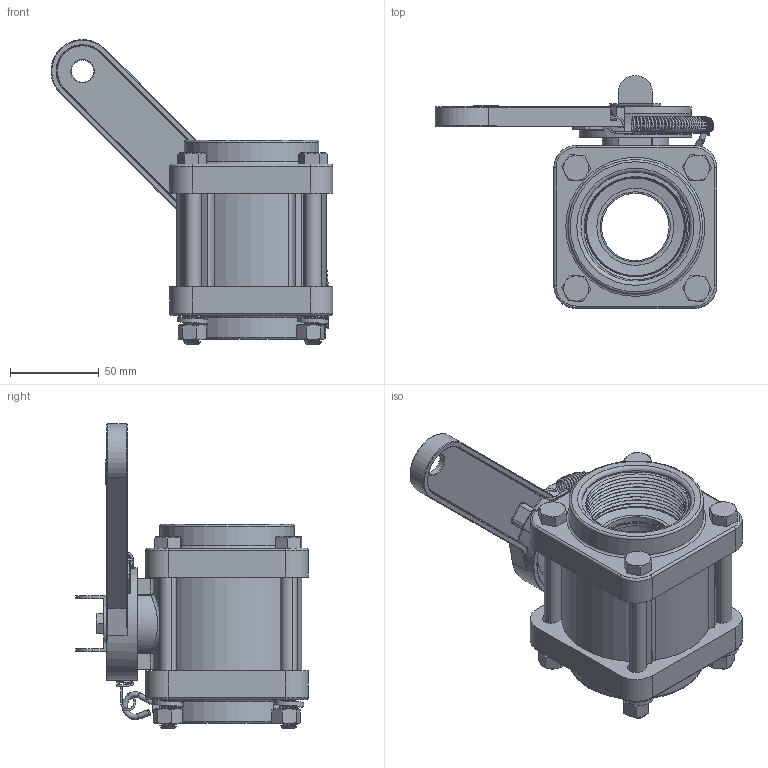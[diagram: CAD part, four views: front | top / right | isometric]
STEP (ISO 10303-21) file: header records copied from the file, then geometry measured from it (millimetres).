
FILE_DESCRIPTION(/* description */ ('Alibre Inc.'),/* implementation_level */ '2;1');
FILE_NAME(/* name */ 'export0',/* time_stamp */ '2017-09-30T10:46:58-04:00',/* author */ (''),/* organization */ (''),/* preprocessor_version */ 'ST-DEVELOPER v14',/* originating_system */ 'Alibre',/* authorisation */ '');
FILE_SCHEMA (('CONFIG_CONTROL_DESIGN'));
Length unit declared in the file: centimetre
Products named in the file (26): ID_1; ID_2; ID_3; ID_4; ID_5; ID_6; ID_7; ID_8; ID_9; ID_10; ID_11; ID_12; ID_13; ID_14; ID_15; ID_16; ID_17; ID_18; ID_19; ID_20; ID_21; ID_22; ID_23
Bounding box: 158.88 x 131.42 x 171.88 mm (x, y, z)
Volume: 563085 mm3; surface area: 198391.3 mm2
Topology: 63 solids, 63 shells, 1247 faces, 3192 edges, 2026 vertices
Faces by surface type: cylinder 442, plane 327, bspline 187, cone 186, torus 96, sphere 9
Full cylindrical faces by diameter (mm): 1.143 x2, 3.175 x2, 4.775 x1, 4.826 x3, 4.978 x1, 7.163 x1, 9.652 x8, 12.446 x1, 19.05 x4, 19.431 x1, 21.59 x1, 22.098 x1, 22.352 x2, 22.86 x1, 24.892 x1, 25.4 x1, 31.496 x2, 31.75 x1, 33.147 x1, 38.1 x2, 38.354 x1, 39.624 x2, 61.468 x2, 63.5 x2, 65.278 x1, 71.12 x2, 71.628 x2, 75.946 x2
Entity records: 62971 total; most frequent: CARTESIAN_POINT 43167, ORIENTED_EDGE 3756, DIRECTION 2878, EDGE_CURVE 1878, VERTEX_POINT 1256, AXIS2_PLACEMENT_3D 1237, FACE_BOUND 938, EDGE_LOOP 910
